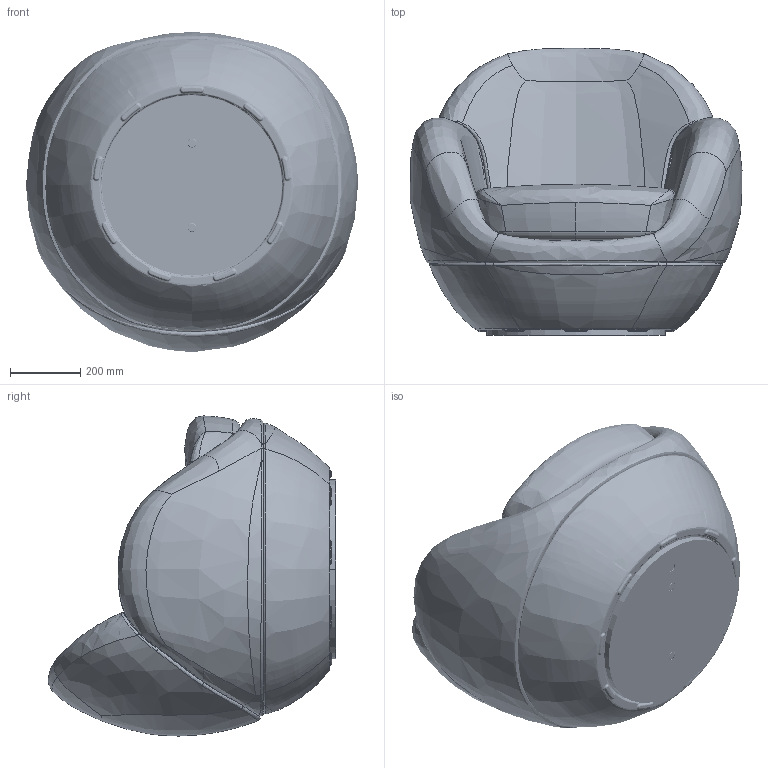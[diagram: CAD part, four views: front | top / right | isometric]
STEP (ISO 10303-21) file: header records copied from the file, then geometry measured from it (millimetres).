
FILE_DESCRIPTION (( 'STEP AP214' ), '1' );
FILE_NAME ('1001-T2-RevE - Mollu Chair Swivel Full Assem.STEP', '2026-04-29T14:01:33', ( '' ), ( '' ), 'SwSTEP 2.0', 'SolidWorks 2026', '' );
FILE_SCHEMA (( 'AUTOMOTIVE_DESIGN' ));
Length unit declared in the file: millimetre
Products named in the file (1): 1001-T2-RevE - Mollu Chair Swivel Full Assem
Bounding box: 945.69 x 818.01 x 911.94 mm (x, y, z)
Volume: 273134169.7 mm3; surface area: 8353662.8 mm2
Topology: 103 solids, 103 shells, 4455 faces, 11242 edges, 7072 vertices
Faces by surface type: cylinder 1481, plane 1281, bspline 782, cone 567, torus 328, sphere 16
Entity records: 368063 total; most frequent: CARTESIAN_POINT 266428, ORIENTED_EDGE 22316, DIRECTION 19321, EDGE_CURVE 11158, AXIS2_PLACEMENT_3D 7497, VERTEX_POINT 7072, EDGE_LOOP 4864, ADVANCED_FACE 4455
